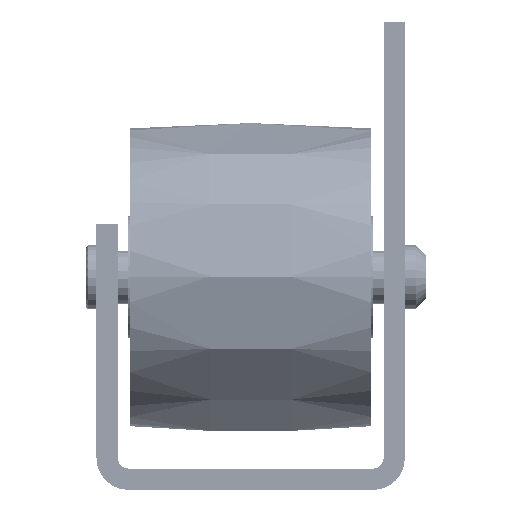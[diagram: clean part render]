
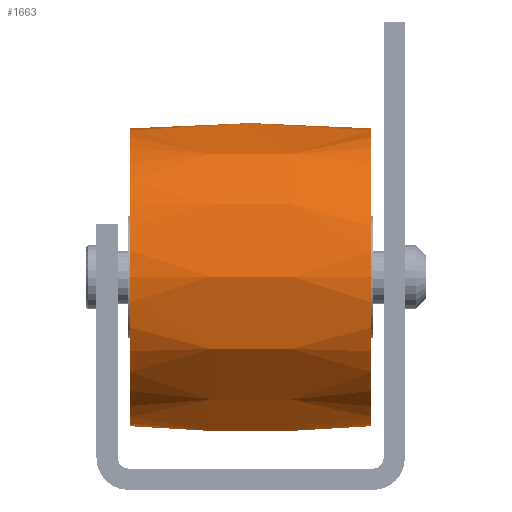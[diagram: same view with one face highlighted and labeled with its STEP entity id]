
A CAD part, front view. The second image highlights one B-rep face of the part: STEP entity #1663.
In plain terms, the highlighted free-form (B-spline) face has degree [3, 3] with [4, 7] control points.
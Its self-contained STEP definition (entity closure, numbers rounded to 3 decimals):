
#1663 = ADVANCED_FACE( '', ( #2958, #2959 ), #2960, .T. );
#2958 = FACE_OUTER_BOUND( '', #4592, .T. );
#2959 = FACE_OUTER_BOUND( '', #4593, .T. );
#2960 = ( BOUNDED_SURFACE(  )B_SPLINE_SURFACE( 3, 3, ( ( #4596, #4597, #4598, #4599, #4600, #4601, #4602 ), ( #4603, #4604, #4605, #4606, #4607, #4608, #4609 ), ( #4610, #4611, #4612, #4613, #4614, #4615, #4616 ), ( #4617, #4618, #4619, #4620, #4621, #4622, #4623 ) ), .UNSPECIFIED., .F., .T., .F. )B_SPLINE_SURFACE_WITH_KNOTS( ( 4, 4 ), ( 4, 3, 4 ), ( 0., 6.283 ), ( -0.088, 0., 0.088 ), .UNSPECIFIED. )GEOMETRIC_REPRESENTATION_ITEM(  )RATIONAL_B_SPLINE_SURFACE( ( ( 1., 0.333, 0.333, 1., 0.333, 0.333, 1. ), ( 0.997, 0.332, 0.332, 0.997, 0.332, 0.332, 0.997 ), ( 0.997, 0.332, 0.332, 0.997, 0.332, 0.332, 0.997 ), ( 1., 0.333, 0.333, 1., 0.333, 0.333, 1. ) ) )REPRESENTATION_ITEM( '' )SURFACE(  ) );
#4592 = EDGE_LOOP( '', ( #6568 ) );
#4593 = EDGE_LOOP( '', ( #6569 ) );
#4596 = CARTESIAN_POINT( '', ( -11.35, 0., 14. ) );
#4597 = CARTESIAN_POINT( '', ( -11.35, 28., 14. ) );
#4598 = CARTESIAN_POINT( '', ( -11.35, 28., -14. ) );
#4599 = CARTESIAN_POINT( '', ( -11.35, 0., -14. ) );
#4600 = CARTESIAN_POINT( '', ( -11.35, -28., -14. ) );
#4601 = CARTESIAN_POINT( '', ( -11.35, -28., 14. ) );
#4602 = CARTESIAN_POINT( '', ( -11.35, 0., 14. ) );
#4603 = CARTESIAN_POINT( '', ( -3.793, 0., 14.667 ) );
#4604 = CARTESIAN_POINT( '', ( -3.793, 29.334, 14.667 ) );
#4605 = CARTESIAN_POINT( '', ( -3.793, 29.334, -14.667 ) );
#4606 = CARTESIAN_POINT( '', ( -3.793, 0., -14.667 ) );
#4607 = CARTESIAN_POINT( '', ( -3.793, -29.334, -14.667 ) );
#4608 = CARTESIAN_POINT( '', ( -3.793, -29.334, 14.667 ) );
#4609 = CARTESIAN_POINT( '', ( -3.793, 0., 14.667 ) );
#4610 = CARTESIAN_POINT( '', ( 3.793, 0., 14.667 ) );
#4611 = CARTESIAN_POINT( '', ( 3.793, 29.334, 14.667 ) );
#4612 = CARTESIAN_POINT( '', ( 3.793, 29.334, -14.667 ) );
#4613 = CARTESIAN_POINT( '', ( 3.793, 0., -14.667 ) );
#4614 = CARTESIAN_POINT( '', ( 3.793, -29.334, -14.667 ) );
#4615 = CARTESIAN_POINT( '', ( 3.793, -29.334, 14.667 ) );
#4616 = CARTESIAN_POINT( '', ( 3.793, 0., 14.667 ) );
#4617 = CARTESIAN_POINT( '', ( 11.35, 0., 14. ) );
#4618 = CARTESIAN_POINT( '', ( 11.35, 28., 14. ) );
#4619 = CARTESIAN_POINT( '', ( 11.35, 28., -14. ) );
#4620 = CARTESIAN_POINT( '', ( 11.35, 0., -14. ) );
#4621 = CARTESIAN_POINT( '', ( 11.35, -28., -14. ) );
#4622 = CARTESIAN_POINT( '', ( 11.35, -28., 14. ) );
#4623 = CARTESIAN_POINT( '', ( 11.35, 0., 14. ) );
#6568 = ORIENTED_EDGE( '', *, *, #9501, .T. );
#6569 = ORIENTED_EDGE( '', *, *, #9215, .F. );
#9215 = EDGE_CURVE( '', #10436, #10436, #10437, .T. );
#9501 = EDGE_CURVE( '', #10954, #10954, #10955, .T. );
#10436 = VERTEX_POINT( '', #12306 );
#10437 = CIRCLE( '', #12307, 14. );
#10954 = VERTEX_POINT( '', #13004 );
#10955 = CIRCLE( '', #13005, 14. );
#12306 = CARTESIAN_POINT( '', ( -11.35, 0., 14. ) );
#12307 = AXIS2_PLACEMENT_3D( '', #14687, #14688, #14689 );
#13004 = CARTESIAN_POINT( '', ( 11.35, 0., 14. ) );
#13005 = AXIS2_PLACEMENT_3D( '', #15206, #15207, #15208 );
#14687 = CARTESIAN_POINT( '', ( -11.35, 0., 0. ) );
#14688 = DIRECTION( '', ( -1., 0., 0. ) );
#14689 = DIRECTION( '', ( 0., 0., 1. ) );
#15206 = CARTESIAN_POINT( '', ( 11.35, 0., 0. ) );
#15207 = DIRECTION( '', ( -1., 0., 0. ) );
#15208 = DIRECTION( '', ( 0., 0., 1. ) );
